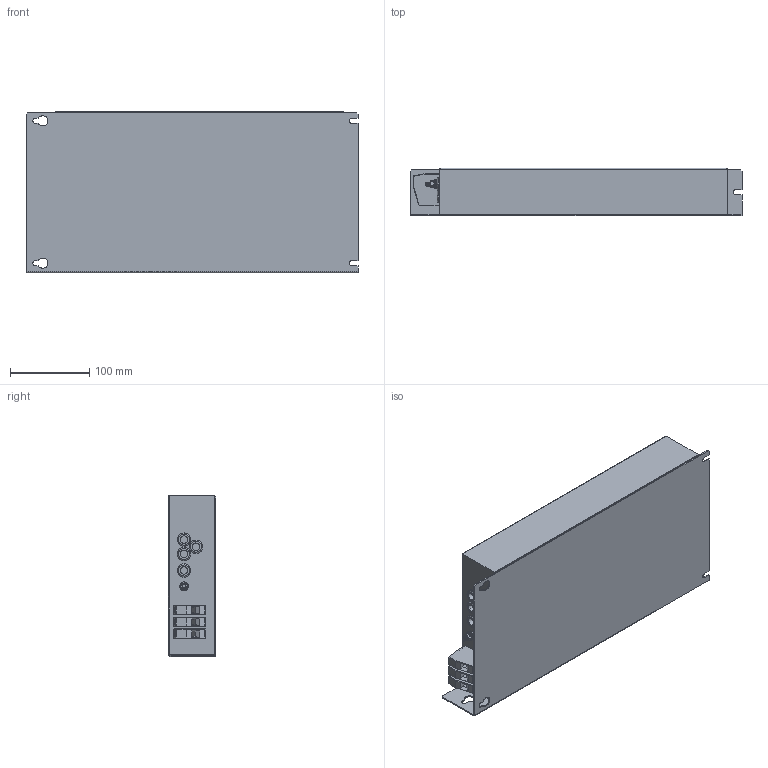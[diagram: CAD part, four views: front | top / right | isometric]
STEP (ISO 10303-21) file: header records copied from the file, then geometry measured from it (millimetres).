
FILE_DESCRIPTION (( 'STEP AP203' ), '1' );
FILE_NAME ('NF-U-LE-8400-34060.STEP', '2024-04-16T13:21:29', ( '' ), ( '' ), 'SwSTEP 2.0', 'SolidWorks 2017', '' );
FILE_SCHEMA (( 'CONFIG_CONTROL_DESIGN' ));
Length unit declared in the file: millimetre
Products named in the file (8): Grommet_15084; hex screw_am_B18.6.7M - M5 x 0.8 x 13 Indented HHMS --13S; NF-U-LE-8400-34060; 84LZ6; HDFK-16; hex nut style 1_am_B18.2.4.1M - Hex nut, Style 1,  M5 x 0.8 --D-N; flat washer narrow_am_B18.22M - Plain washer, 5 mm, narrow; M5x13 Earth post
Assembly tree (13 placements, depth 3):
  NF-U-LE-8400-34060
    84LZ6
    Grommet_15084  x4
    M5x13 Earth post
      hex screw_am_B18.6.7M - M5 x 0.8 x 13 Indented HHMS --13S
      flat washer narrow_am_B18.22M - Plain washer, 5 mm, narrow  x2
      hex nut style 1_am_B18.2.4.1M - Hex nut, Style 1,  M5 x 0.8 --D-N
    HDFK-16  x3
Bounding box: 420 x 60 x 204 mm (x, y, z)
Volume: 4522725.9 mm3; surface area: 269240.1 mm2
Topology: 12 solids, 12 shells, 543 faces, 1255 edges, 766 vertices
Faces by surface type: plane 266, cylinder 143, cone 116, torus 16, sphere 2
Entity records: 11067 total; most frequent: DIRECTION 1849, CARTESIAN_POINT 1847, ORIENTED_EDGE 1634, EDGE_CURVE 817, AXIS2_PLACEMENT_3D 708, VERTEX_POINT 506, LINE 433, VECTOR 433
